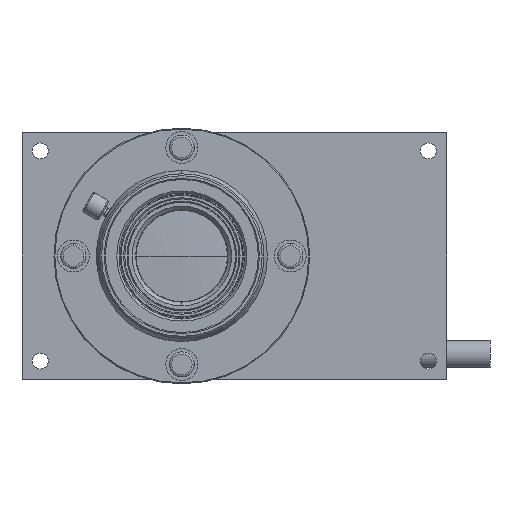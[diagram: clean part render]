
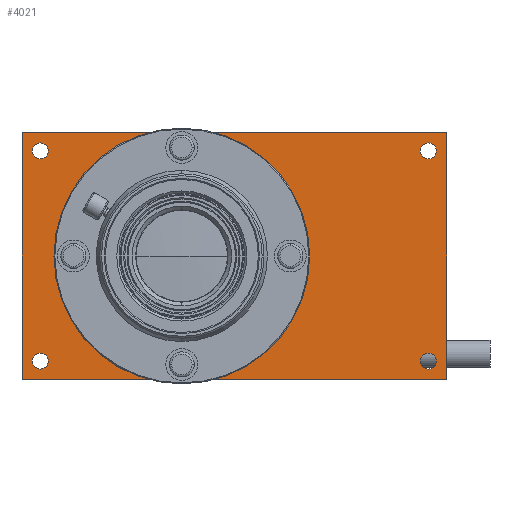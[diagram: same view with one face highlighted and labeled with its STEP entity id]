
A CAD part, left-side view. The second image highlights one B-rep face of the part: STEP entity #4021.
In plain terms, the highlighted planar face has unit normal (-1, 0, 0).
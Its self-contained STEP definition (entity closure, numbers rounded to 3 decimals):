
#6 = DIRECTION ( 'NONE',  ( 0., 0., -1. ) ) ;
#218 = FACE_BOUND ( 'NONE', #7944, .T. ) ;
#387 = ORIENTED_EDGE ( 'NONE', *, *, #9743, .T. ) ;
#534 = DIRECTION ( 'NONE',  ( 0., 0., -1. ) ) ;
#582 = CARTESIAN_POINT ( 'NONE',  ( -164.992, -58., 27. ) ) ;
#646 = DIRECTION ( 'NONE',  ( 1., 0., 0. ) ) ;
#758 = EDGE_CURVE ( 'NONE', #7548, #8458, #10785, .T. ) ;
#773 = DIRECTION ( 'NONE',  ( 1., 0., 0. ) ) ;
#935 = EDGE_CURVE ( 'NONE', #9269, #1588, #4301, .T. ) ;
#1024 = CARTESIAN_POINT ( 'NONE',  ( -164.992, -54., -24.75 ) ) ;
#1123 = EDGE_LOOP ( 'NONE', ( #387, #8026 ) ) ;
#1137 = CIRCLE ( 'NONE', #8522, 1.75 ) ;
#1185 = ORIENTED_EDGE ( 'NONE', *, *, #935, .F. ) ;
#1273 = CARTESIAN_POINT ( 'NONE',  ( -164.992, -54., 23. ) ) ;
#1406 = DIRECTION ( 'NONE',  ( 0., 1., 0. ) ) ;
#1527 = LINE ( 'NONE', #582, #8119 ) ;
#1588 = VERTEX_POINT ( 'NONE', #11078 ) ;
#1594 = VERTEX_POINT ( 'NONE', #5948 ) ;
#1613 = EDGE_CURVE ( 'NONE', #7253, #8295, #4889, .T. ) ;
#1666 = CARTESIAN_POINT ( 'NONE',  ( -164.992, 0., 0. ) ) ;
#1667 = VECTOR ( 'NONE', #10905, 1000. ) ;
#1760 = CIRCLE ( 'NONE', #3473, 1.75 ) ;
#1925 = LINE ( 'NONE', #10944, #1667 ) ;
#1969 = VERTEX_POINT ( 'NONE', #8811 ) ;
#2140 = DIRECTION ( 'NONE',  ( 0., 0., -1. ) ) ;
#2169 = CARTESIAN_POINT ( 'NONE',  ( -164.992, 31., -21.25 ) ) ;
#2225 = EDGE_CURVE ( 'NONE', #1588, #1969, #1527, .T. ) ;
#2230 = FACE_BOUND ( 'NONE', #3843, .T. ) ;
#2373 = DIRECTION ( 'NONE',  ( 1., 0., 0. ) ) ;
#2525 = DIRECTION ( 'NONE',  ( 0., 0., -1. ) ) ;
#2530 = AXIS2_PLACEMENT_3D ( 'NONE', #7532, #2373, #8394 ) ;
#2660 = AXIS2_PLACEMENT_3D ( 'NONE', #5784, #646, #6669 ) ;
#2674 = CARTESIAN_POINT ( 'NONE',  ( -164.992, 31., 21.25 ) ) ;
#2705 = ORIENTED_EDGE ( 'NONE', *, *, #5002, .F. ) ;
#2814 = VERTEX_POINT ( 'NONE', #5766 ) ;
#3299 = EDGE_CURVE ( 'NONE', #10870, #9841, #7230, .T. ) ;
#3473 = AXIS2_PLACEMENT_3D ( 'NONE', #3999, #10026, #4856 ) ;
#3516 = CARTESIAN_POINT ( 'NONE',  ( -164.992, -54., -21.25 ) ) ;
#3524 = DIRECTION ( 'NONE',  ( 1., 0., 0. ) ) ;
#3549 = CARTESIAN_POINT ( 'NONE',  ( -164.992, 35., -27. ) ) ;
#3838 = CARTESIAN_POINT ( 'NONE',  ( -164.992, 35., 27. ) ) ;
#3843 = EDGE_LOOP ( 'NONE', ( #9676, #4677 ) ) ;
#3995 = AXIS2_PLACEMENT_3D ( 'NONE', #10294, #5118, #6 ) ;
#3999 = CARTESIAN_POINT ( 'NONE',  ( -164.992, -54., -23. ) ) ;
#4021 = ADVANCED_FACE ( 'NONE', ( #9097, #6817, #218, #2230, #4763, #11086 ), #9747, .F. ) ;
#4023 = ORIENTED_EDGE ( 'NONE', *, *, #4280, .T. ) ;
#4084 = CIRCLE ( 'NONE', #10626, 1.75 ) ;
#4134 = CARTESIAN_POINT ( 'NONE',  ( -164.992, 0., 18.6 ) ) ;
#4275 = LINE ( 'NONE', #5694, #10891 ) ;
#4280 = EDGE_CURVE ( 'NONE', #8295, #7253, #4084, .T. ) ;
#4301 = LINE ( 'NONE', #3838, #10642 ) ;
#4467 = DIRECTION ( 'NONE',  ( 0., 0., -1. ) ) ;
#4641 = CARTESIAN_POINT ( 'NONE',  ( -164.992, 0., -18.6 ) ) ;
#4677 = ORIENTED_EDGE ( 'NONE', *, *, #7564, .T. ) ;
#4763 = FACE_OUTER_BOUND ( 'NONE', #6448, .T. ) ;
#4833 = ORIENTED_EDGE ( 'NONE', *, *, #9214, .F. ) ;
#4856 = DIRECTION ( 'NONE',  ( 0., 0., -1. ) ) ;
#4880 = DIRECTION ( 'NONE',  ( 0., 0., -1. ) ) ;
#4889 = CIRCLE ( 'NONE', #2660, 1.75 ) ;
#5002 = EDGE_CURVE ( 'NONE', #10899, #9269, #1925, .T. ) ;
#5118 = DIRECTION ( 'NONE',  ( 1., 0., 0. ) ) ;
#5453 = DIRECTION ( 'NONE',  ( 0., 0., -1. ) ) ;
#5681 = DIRECTION ( 'NONE',  ( 1., 0., 0. ) ) ;
#5694 = CARTESIAN_POINT ( 'NONE',  ( -164.992, 35., -27. ) ) ;
#5766 = CARTESIAN_POINT ( 'NONE',  ( -164.992, 31., 24.75 ) ) ;
#5784 = CARTESIAN_POINT ( 'NONE',  ( -164.992, 31., -23. ) ) ;
#5854 = AXIS2_PLACEMENT_3D ( 'NONE', #1666, #7690, #2525 ) ;
#5920 = CARTESIAN_POINT ( 'NONE',  ( -164.992, 31., -23. ) ) ;
#5948 = CARTESIAN_POINT ( 'NONE',  ( -164.992, -54., 21.25 ) ) ;
#6145 = VERTEX_POINT ( 'NONE', #7725 ) ;
#6428 = ORIENTED_EDGE ( 'NONE', *, *, #8348, .T. ) ;
#6448 = EDGE_LOOP ( 'NONE', ( #1185, #2705, #4833, #10188 ) ) ;
#6512 = AXIS2_PLACEMENT_3D ( 'NONE', #1273, #7306, #2140 ) ;
#6649 = CARTESIAN_POINT ( 'NONE',  ( -164.992, 35., 27. ) ) ;
#6669 = DIRECTION ( 'NONE',  ( 0., 0., -1. ) ) ;
#6767 = ORIENTED_EDGE ( 'NONE', *, *, #9360, .T. ) ;
#6803 = DIRECTION ( 'NONE',  ( 0., 0., -1. ) ) ;
#6817 = FACE_BOUND ( 'NONE', #10250, .T. ) ;
#6838 = AXIS2_PLACEMENT_3D ( 'NONE', #8020, #10608, #5453 ) ;
#7044 = CIRCLE ( 'NONE', #6512, 1.75 ) ;
#7102 = ORIENTED_EDGE ( 'NONE', *, *, #1613, .T. ) ;
#7230 = CIRCLE ( 'NONE', #3995, 1.75 ) ;
#7253 = VERTEX_POINT ( 'NONE', #10231 ) ;
#7306 = DIRECTION ( 'NONE',  ( 1., 0., 0. ) ) ;
#7532 = CARTESIAN_POINT ( 'NONE',  ( -164.992, 31., 23. ) ) ;
#7542 = CIRCLE ( 'NONE', #5854, 18.6 ) ;
#7548 = VERTEX_POINT ( 'NONE', #4641 ) ;
#7564 = EDGE_CURVE ( 'NONE', #6145, #1594, #7044, .T. ) ;
#7690 = DIRECTION ( 'NONE',  ( 1., 0., 0. ) ) ;
#7725 = CARTESIAN_POINT ( 'NONE',  ( -164.992, -54., 24.75 ) ) ;
#7944 = EDGE_LOOP ( 'NONE', ( #6428, #8430 ) ) ;
#8020 = CARTESIAN_POINT ( 'NONE',  ( -164.992, 0., 0. ) ) ;
#8026 = ORIENTED_EDGE ( 'NONE', *, *, #10344, .T. ) ;
#8119 = VECTOR ( 'NONE', #4880, 1000. ) ;
#8295 = VERTEX_POINT ( 'NONE', #2169 ) ;
#8348 = EDGE_CURVE ( 'NONE', #9841, #10870, #1760, .T. ) ;
#8361 = ORIENTED_EDGE ( 'NONE', *, *, #758, .T. ) ;
#8394 = DIRECTION ( 'NONE',  ( 0., 0., -1. ) ) ;
#8430 = ORIENTED_EDGE ( 'NONE', *, *, #3299, .T. ) ;
#8458 = VERTEX_POINT ( 'NONE', #4134 ) ;
#8522 = AXIS2_PLACEMENT_3D ( 'NONE', #10833, #5681, #534 ) ;
#8679 = CARTESIAN_POINT ( 'NONE',  ( -164.992, 31., 23. ) ) ;
#8811 = CARTESIAN_POINT ( 'NONE',  ( -164.992, -58., -27. ) ) ;
#8936 = AXIS2_PLACEMENT_3D ( 'NONE', #10032, #9644, #4467 ) ;
#9097 = FACE_BOUND ( 'NONE', #1123, .T. ) ;
#9214 = EDGE_CURVE ( 'NONE', #1969, #10899, #4275, .T. ) ;
#9269 = VERTEX_POINT ( 'NONE', #6649 ) ;
#9360 = EDGE_CURVE ( 'NONE', #8458, #7548, #7542, .T. ) ;
#9546 = DIRECTION ( 'NONE',  ( 0., 0., -1. ) ) ;
#9642 = EDGE_CURVE ( 'NONE', #1594, #6145, #1137, .T. ) ;
#9644 = DIRECTION ( 'NONE',  ( 1., 0., 0. ) ) ;
#9676 = ORIENTED_EDGE ( 'NONE', *, *, #9642, .T. ) ;
#9743 = EDGE_CURVE ( 'NONE', #10894, #2814, #10021, .T. ) ;
#9747 = PLANE ( 'NONE',  #6838 ) ;
#9841 = VERTEX_POINT ( 'NONE', #1024 ) ;
#10021 = CIRCLE ( 'NONE', #2530, 1.75 ) ;
#10026 = DIRECTION ( 'NONE',  ( 1., 0., 0. ) ) ;
#10032 = CARTESIAN_POINT ( 'NONE',  ( -164.992, 0., 0. ) ) ;
#10142 = CIRCLE ( 'NONE', #10173, 1.75 ) ;
#10173 = AXIS2_PLACEMENT_3D ( 'NONE', #8679, #3524, #9546 ) ;
#10188 = ORIENTED_EDGE ( 'NONE', *, *, #2225, .F. ) ;
#10231 = CARTESIAN_POINT ( 'NONE',  ( -164.992, 31., -24.75 ) ) ;
#10250 = EDGE_LOOP ( 'NONE', ( #7102, #4023 ) ) ;
#10294 = CARTESIAN_POINT ( 'NONE',  ( -164.992, -54., -23. ) ) ;
#10344 = EDGE_CURVE ( 'NONE', #2814, #10894, #10142, .T. ) ;
#10608 = DIRECTION ( 'NONE',  ( 1., 0., 0. ) ) ;
#10626 = AXIS2_PLACEMENT_3D ( 'NONE', #5920, #773, #6803 ) ;
#10642 = VECTOR ( 'NONE', #10732, 1000. ) ;
#10732 = DIRECTION ( 'NONE',  ( 0., -1., 0. ) ) ;
#10785 = CIRCLE ( 'NONE', #8936, 18.6 ) ;
#10833 = CARTESIAN_POINT ( 'NONE',  ( -164.992, -54., 23. ) ) ;
#10870 = VERTEX_POINT ( 'NONE', #3516 ) ;
#10891 = VECTOR ( 'NONE', #1406, 1000. ) ;
#10894 = VERTEX_POINT ( 'NONE', #2674 ) ;
#10899 = VERTEX_POINT ( 'NONE', #3549 ) ;
#10905 = DIRECTION ( 'NONE',  ( 0., 0., 1. ) ) ;
#10944 = CARTESIAN_POINT ( 'NONE',  ( -164.992, 35., 27. ) ) ;
#11078 = CARTESIAN_POINT ( 'NONE',  ( -164.992, -58., 27. ) ) ;
#11086 = FACE_BOUND ( 'NONE', #11105, .T. ) ;
#11105 = EDGE_LOOP ( 'NONE', ( #6767, #8361 ) ) ;
